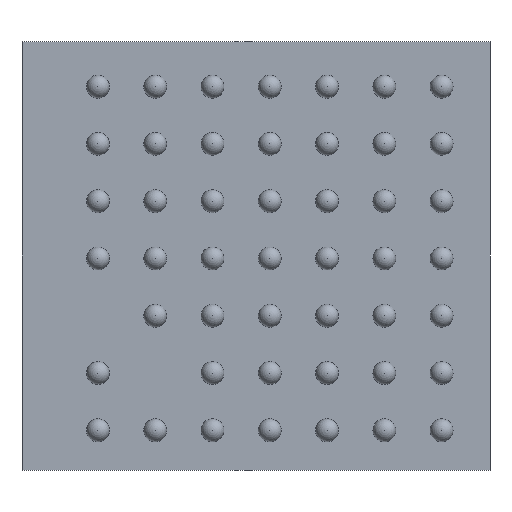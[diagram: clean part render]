
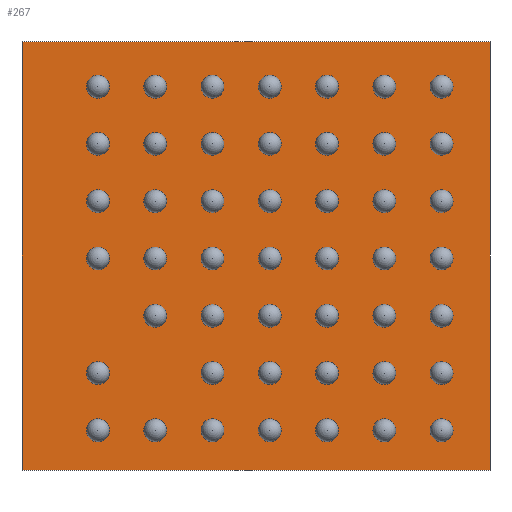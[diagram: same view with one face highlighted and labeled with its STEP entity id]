
A CAD part, front view. The second image highlights one B-rep face of the part: STEP entity #267.
In plain terms, the highlighted planar face has unit normal (0, -1, 0).
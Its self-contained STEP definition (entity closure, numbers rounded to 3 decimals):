
#231 = EDGE_CURVE('',#232,#234,#236,.T.);
#232 = VERTEX_POINT('',#233);
#233 = CARTESIAN_POINT('',(-1.226,0.096,1.123));
#234 = VERTEX_POINT('',#235);
#235 = CARTESIAN_POINT('',(-1.226,0.096,-1.123));
#236 = LINE('',#237,#238);
#237 = CARTESIAN_POINT('',(-1.226,0.096,1.123));
#238 = VECTOR('',#239,1.);
#239 = DIRECTION('',(0.,0.,-1.));
#267 = ADVANCED_FACE('',(#268),#293,.F.);
#268 = FACE_BOUND('',#269,.T.);
#269 = EDGE_LOOP('',(#270,#271,#279,#287));
#270 = ORIENTED_EDGE('',*,*,#231,.T.);
#271 = ORIENTED_EDGE('',*,*,#272,.T.);
#272 = EDGE_CURVE('',#234,#273,#275,.T.);
#273 = VERTEX_POINT('',#274);
#274 = CARTESIAN_POINT('',(1.226,0.096,-1.123));
#275 = LINE('',#276,#277);
#276 = CARTESIAN_POINT('',(-1.226,0.096,-1.123));
#277 = VECTOR('',#278,1.);
#278 = DIRECTION('',(1.,0.,0.));
#279 = ORIENTED_EDGE('',*,*,#280,.T.);
#280 = EDGE_CURVE('',#273,#281,#283,.T.);
#281 = VERTEX_POINT('',#282);
#282 = CARTESIAN_POINT('',(1.226,0.096,1.123));
#283 = LINE('',#284,#285);
#284 = CARTESIAN_POINT('',(1.226,0.096,-1.123));
#285 = VECTOR('',#286,1.);
#286 = DIRECTION('',(0.,0.,1.));
#287 = ORIENTED_EDGE('',*,*,#288,.T.);
#288 = EDGE_CURVE('',#281,#232,#289,.T.);
#289 = LINE('',#290,#291);
#290 = CARTESIAN_POINT('',(1.226,0.096,1.123));
#291 = VECTOR('',#292,1.);
#292 = DIRECTION('',(-1.,0.,0.));
#293 = PLANE('',#294);
#294 = AXIS2_PLACEMENT_3D('',#295,#296,#297);
#295 = CARTESIAN_POINT('',(0.,0.096,
    0.));
#296 = DIRECTION('',(0.,1.,0.));
#297 = DIRECTION('',(0.,0.,1.));
